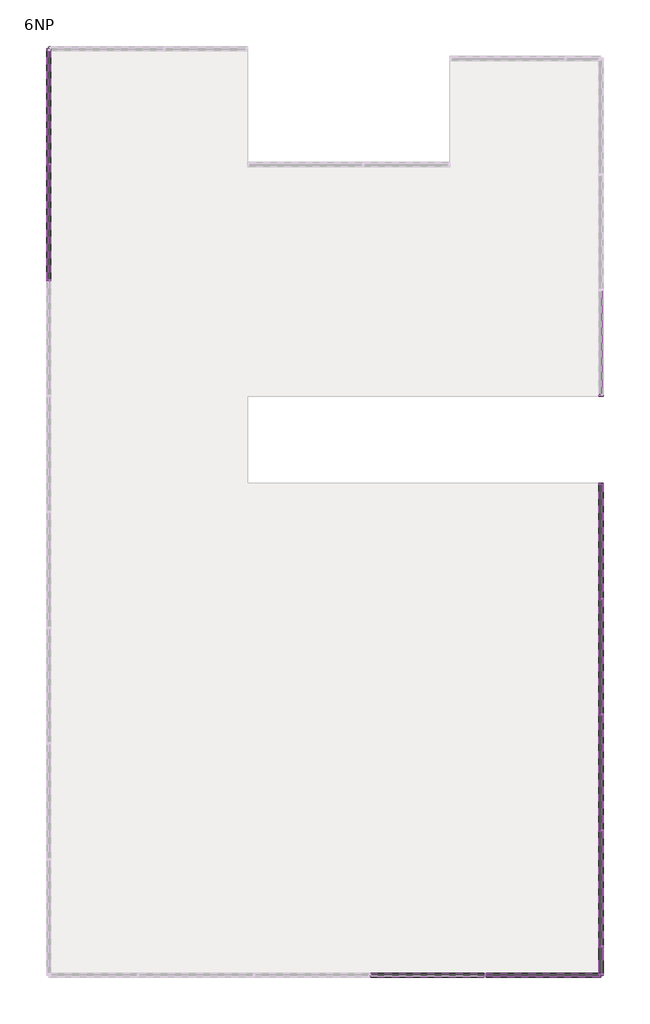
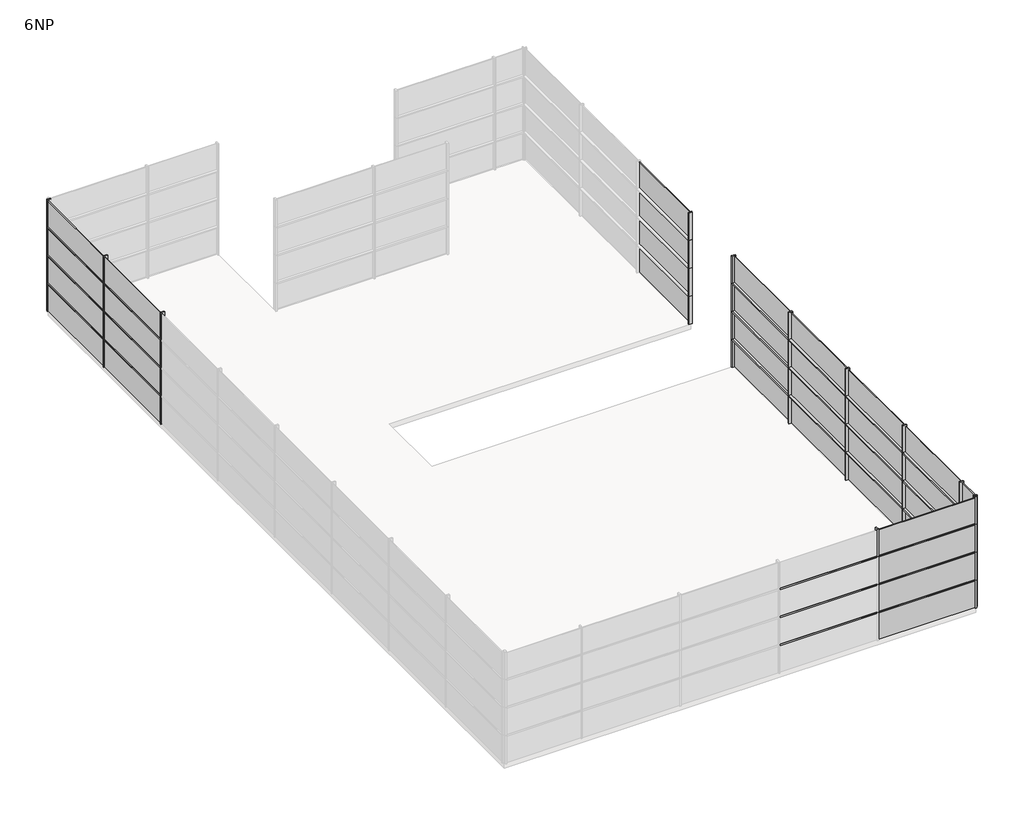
# One storey, part 2 of 3: 73 members, 36 plates.
"""IFC4 building model written with IfcOpenShell, lengths in millimetres."""

from ifc_helpers import new_model, si_unit, origin, place, context, project, spatial, transform, mapped, element, save
from components import rectangular_mullion_50_x_150mm_d99dc9be, rectangular_mullion_50_x_150mm_6588f46c, rectangular_mullion_50_x_150mm_a037c29c, rectangular_mullion_50_x_150mm_c2546fd4, rectangular_mullion_50_x_150mm_568dda71, rectangular_mullion_50_x_150mm_268a5786, rectangular_mullion_50_x_150mm_116cff39, system_panel_glazed_8e9402eb, system_panel_glazed_89ac83a7, system_panel_glazed_5566c609, system_panel_glazed_cf4d7c03, system_panel_glazed_7b3729bb, system_panel_glazed_1a112643, system_panel_glazed_8c18451d, system_panel_glazed_9f27e4b4

model = new_model("IFC4")

# Units and contexts
model_context = context("Model", 3, world=origin())
ifc_project = project(units=[si_unit("LENGTHUNIT", "METRE", prefix="MILLI")], contexts=[model_context])

# Site, building, storey
site = spatial("IfcSite", under=ifc_project)
building = spatial("IfcBuilding", under=site)
storey = spatial("IfcBuildingStorey", under=building, Name="6NP", Elevation=24000.0)

# Members
placement = place(None, origin())
rectangular_mullion_50_x_150mm_shape = rectangular_mullion_50_x_150mm_d99dc9be(model_context)
element("IfcMember", 1, ObjectType="Rectangular Mullion : 50 x 150mm", at=placement, inside=storey, context=model_context, shape_type="MappedRepresentation", body=[
    mapped(rectangular_mullion_50_x_150mm_shape, transform((13503.2660975, -10624.0160434, 25200.0), x_axis=(0.0, -1.0, 0.0), y_axis=(1.0, 0.0, 0.0), z_axis=(0.0, 0.0, 1.0))),
])
element("IfcMember", 2, ObjectType="Rectangular Mullion : 50 x 150mm", at=placement, inside=storey, context=model_context, shape_type="MappedRepresentation", body=[
    mapped(rectangular_mullion_50_x_150mm_shape, transform((13503.2660975, -10624.0160434, 26400.0), x_axis=(0.0, -1.0, 0.0), y_axis=(1.0, 0.0, 0.0), z_axis=(0.0, 0.0, 1.0))),
])
element("IfcMember", 3, ObjectType="Rectangular Mullion : 50 x 150mm", at=placement, inside=storey, context=model_context, shape_type="MappedRepresentation", body=[
    mapped(rectangular_mullion_50_x_150mm_shape, transform((13503.2660975, -10624.0160434, 27600.0), x_axis=(0.0, -1.0, 0.0), y_axis=(1.0, 0.0, 0.0), z_axis=(0.0, 0.0, 1.0))),
])
element("IfcMember", 4, ObjectType="Rectangular Mullion : 50 x 150mm", at=placement, inside=storey, context=model_context, shape_type="MappedRepresentation", body=[
    mapped(rectangular_mullion_50_x_150mm_shape, transform((13503.2660975, -14624.0160434, 25200.0), x_axis=(0.0, -1.0, 0.0), y_axis=(1.0, 0.0, 0.0), z_axis=(0.0, 0.0, 1.0))),
])
element("IfcMember", 5, ObjectType="Rectangular Mullion : 50 x 150mm", at=placement, inside=storey, context=model_context, shape_type="MappedRepresentation", body=[
    mapped(rectangular_mullion_50_x_150mm_shape, transform((13503.2660975, -14624.0160434, 26400.0), x_axis=(0.0, -1.0, 0.0), y_axis=(1.0, 0.0, 0.0), z_axis=(0.0, 0.0, 1.0))),
])
element("IfcMember", 6, ObjectType="Rectangular Mullion : 50 x 150mm", at=placement, inside=storey, context=model_context, shape_type="MappedRepresentation", body=[
    mapped(rectangular_mullion_50_x_150mm_shape, transform((13503.2660975, -14624.0160434, 27600.0), x_axis=(0.0, -1.0, 0.0), y_axis=(1.0, 0.0, 0.0), z_axis=(0.0, 0.0, 1.0))),
])
element("IfcMember", 7, ObjectType="Rectangular Mullion : 50 x 150mm", at=placement, inside=storey, context=model_context, shape_type="MappedRepresentation", body=[
    mapped(rectangular_mullion_50_x_150mm_shape, transform((13503.2660975, -18624.0160434, 25200.0), x_axis=(0.0, -1.0, 0.0), y_axis=(1.0, 0.0, 0.0), z_axis=(0.0, 0.0, 1.0))),
])
element("IfcMember", 8, ObjectType="Rectangular Mullion : 50 x 150mm", at=placement, inside=storey, context=model_context, shape_type="MappedRepresentation", body=[
    mapped(rectangular_mullion_50_x_150mm_shape, transform((13503.2660975, -18624.0160434, 26400.0), x_axis=(0.0, -1.0, 0.0), y_axis=(1.0, 0.0, 0.0), z_axis=(0.0, 0.0, 1.0))),
])
element("IfcMember", 9, ObjectType="Rectangular Mullion : 50 x 150mm", at=placement, inside=storey, context=model_context, shape_type="MappedRepresentation", body=[
    mapped(rectangular_mullion_50_x_150mm_shape, transform((13503.2660975, -18624.0160434, 27600.0), x_axis=(0.0, -1.0, 0.0), y_axis=(1.0, 0.0, 0.0), z_axis=(0.0, 0.0, 1.0))),
])
element("IfcMember", 10, ObjectType="Rectangular Mullion : 50 x 150mm", at=placement, inside=storey, context=model_context, shape_type="MappedRepresentation", body=[
    mapped(rectangular_mullion_50_x_150mm_shape, transform((13503.2660975, -22624.0160434, 25200.0), x_axis=(0.0, -1.0, 0.0), y_axis=(1.0, 0.0, 0.0), z_axis=(0.0, 0.0, 1.0))),
])
element("IfcMember", 11, ObjectType="Rectangular Mullion : 50 x 150mm", at=placement, inside=storey, context=model_context, shape_type="MappedRepresentation", body=[
    mapped(rectangular_mullion_50_x_150mm_shape, transform((13503.2660975, -22624.0160434, 26400.0), x_axis=(0.0, -1.0, 0.0), y_axis=(1.0, 0.0, 0.0), z_axis=(0.0, 0.0, 1.0))),
])
element("IfcMember", 12, ObjectType="Rectangular Mullion : 50 x 150mm", at=placement, inside=storey, context=model_context, shape_type="MappedRepresentation", body=[
    mapped(rectangular_mullion_50_x_150mm_shape, transform((13503.2660975, -22624.0160434, 27600.0), x_axis=(0.0, -1.0, 0.0), y_axis=(1.0, 0.0, 0.0), z_axis=(0.0, 0.0, 1.0))),
])
element("IfcMember", 13, ObjectType="Rectangular Mullion : 50 x 150mm", at=placement, inside=storey, context=model_context, shape_type="MappedRepresentation", body=[
    mapped(rectangular_mullion_50_x_150mm_shape, transform((-5587.173406, 375.9839566, 25200.0), x_axis=(0.0, 1.0, 0.0), y_axis=(-1.0, 0.0, 0.0), z_axis=(0.0, 0.0, 1.0))),
])
element("IfcMember", 14, ObjectType="Rectangular Mullion : 50 x 150mm", at=placement, inside=storey, context=model_context, shape_type="MappedRepresentation", body=[
    mapped(rectangular_mullion_50_x_150mm_shape, transform((-5587.173406, 375.9839566, 26400.0), x_axis=(0.0, 1.0, 0.0), y_axis=(-1.0, 0.0, 0.0), z_axis=(0.0, 0.0, 1.0))),
])
element("IfcMember", 15, ObjectType="Rectangular Mullion : 50 x 150mm", at=placement, inside=storey, context=model_context, shape_type="MappedRepresentation", body=[
    mapped(rectangular_mullion_50_x_150mm_shape, transform((-5587.173406, 375.9839566, 27600.0), x_axis=(0.0, 1.0, 0.0), y_axis=(-1.0, 0.0, 0.0), z_axis=(0.0, 0.0, 1.0))),
])
element("IfcMember", 16, ObjectType="Rectangular Mullion : 50 x 150mm", at=placement, inside=storey, context=model_context, shape_type="MappedRepresentation", body=[
    mapped(rectangular_mullion_50_x_150mm_shape, transform((-5587.173406, 4375.9839566, 25200.0), x_axis=(0.0, 1.0, 0.0), y_axis=(-1.0, 0.0, 0.0), z_axis=(0.0, 0.0, 1.0))),
])
element("IfcMember", 17, ObjectType="Rectangular Mullion : 50 x 150mm", at=placement, inside=storey, context=model_context, shape_type="MappedRepresentation", body=[
    mapped(rectangular_mullion_50_x_150mm_shape, transform((-5587.173406, 4375.9839566, 26400.0), x_axis=(0.0, 1.0, 0.0), y_axis=(-1.0, 0.0, 0.0), z_axis=(0.0, 0.0, 1.0))),
])
element("IfcMember", 18, ObjectType="Rectangular Mullion : 50 x 150mm", at=placement, inside=storey, context=model_context, shape_type="MappedRepresentation", body=[
    mapped(rectangular_mullion_50_x_150mm_shape, transform((-5587.173406, 4375.9839566, 27600.0), x_axis=(0.0, 1.0, 0.0), y_axis=(-1.0, 0.0, 0.0), z_axis=(0.0, 0.0, 1.0))),
])
rectangular_mullion_50_x_150mm_2_shape = rectangular_mullion_50_x_150mm_6588f46c(model_context)
element("IfcMember", 19, ObjectType="Rectangular Mullion : 50 x 150mm", at=placement, inside=storey, context=model_context, shape_type="MappedRepresentation", body=[
    mapped(rectangular_mullion_50_x_150mm_2_shape, transform((13503.2660975, -3624.0160434, 27600.0), x_axis=(0.0, -1.0, 0.0), y_axis=(1.0, 0.0, 0.0), z_axis=(0.0, 0.0, 1.0))),
])
element("IfcMember", 20, ObjectType="Rectangular Mullion : 50 x 150mm", at=placement, inside=storey, context=model_context, shape_type="MappedRepresentation", body=[
    mapped(rectangular_mullion_50_x_150mm_2_shape, transform((13503.2660975, -3624.0160434, 26400.0), x_axis=(0.0, -1.0, 0.0), y_axis=(1.0, 0.0, 0.0), z_axis=(0.0, 0.0, 1.0))),
])
element("IfcMember", 21, ObjectType="Rectangular Mullion : 50 x 150mm", at=placement, inside=storey, context=model_context, shape_type="MappedRepresentation", body=[
    mapped(rectangular_mullion_50_x_150mm_2_shape, transform((13503.2660975, -3624.0160434, 25200.0), x_axis=(0.0, -1.0, 0.0), y_axis=(1.0, 0.0, 0.0), z_axis=(0.0, 0.0, 1.0))),
])
element("IfcMember", 22, ObjectType="Rectangular Mullion : 50 x 150mm", at=placement, inside=storey, context=model_context, shape_type="MappedRepresentation", body=[
    mapped(rectangular_mullion_50_x_150mm_2_shape, transform((13503.2660975, -23624.0160434, 25200.0), x_axis=(0.0, -1.0, 0.0), y_axis=(1.0, 0.0, 0.0), z_axis=(0.0, 0.0, 1.0))),
])
element("IfcMember", 23, ObjectType="Rectangular Mullion : 50 x 150mm", at=placement, inside=storey, context=model_context, shape_type="MappedRepresentation", body=[
    mapped(rectangular_mullion_50_x_150mm_2_shape, transform((13503.2660975, -23624.0160434, 26400.0), x_axis=(0.0, -1.0, 0.0), y_axis=(1.0, 0.0, 0.0), z_axis=(0.0, 0.0, 1.0))),
])
element("IfcMember", 24, ObjectType="Rectangular Mullion : 50 x 150mm", at=placement, inside=storey, context=model_context, shape_type="MappedRepresentation", body=[
    mapped(rectangular_mullion_50_x_150mm_2_shape, transform((13503.2660975, -23624.0160434, 27600.0), x_axis=(0.0, -1.0, 0.0), y_axis=(1.0, 0.0, 0.0), z_axis=(0.0, 0.0, 1.0))),
])
element("IfcMember", 25, ObjectType="Rectangular Mullion : 50 x 150mm", at=placement, inside=storey, context=model_context, shape_type="MappedRepresentation", body=[
    mapped(rectangular_mullion_50_x_150mm_2_shape, transform((-5587.173406, 8375.9839566, 25200.0), x_axis=(0.0, 1.0, 0.0), y_axis=(-1.0, 0.0, 0.0), z_axis=(0.0, 0.0, 1.0))),
])
element("IfcMember", 26, ObjectType="Rectangular Mullion : 50 x 150mm", at=placement, inside=storey, context=model_context, shape_type="MappedRepresentation", body=[
    mapped(rectangular_mullion_50_x_150mm_2_shape, transform((-5587.173406, 8375.9839566, 26400.0), x_axis=(0.0, 1.0, 0.0), y_axis=(-1.0, 0.0, 0.0), z_axis=(0.0, 0.0, 1.0))),
])
element("IfcMember", 27, ObjectType="Rectangular Mullion : 50 x 150mm", at=placement, inside=storey, context=model_context, shape_type="MappedRepresentation", body=[
    mapped(rectangular_mullion_50_x_150mm_2_shape, transform((-5587.173406, 8375.9839566, 27600.0), x_axis=(0.0, 1.0, 0.0), y_axis=(-1.0, 0.0, 0.0), z_axis=(0.0, 0.0, 1.0))),
])
rectangular_mullion_50_x_150mm_3_shape = rectangular_mullion_50_x_150mm_a037c29c(model_context)
element("IfcMember", 28, ObjectType="Rectangular Mullion : 50 x 150mm", at=placement, inside=storey, context=model_context, shape_type="MappedRepresentation", body=[
    mapped(rectangular_mullion_50_x_150mm_3_shape, transform((13503.2660975, -10649.0160434, 25200.0), x_axis=(0.0, 0.0, 1.0), y_axis=(1.0, 0.0, 0.0), z_axis=(0.0, 1.0, 0.0))),
])
element("IfcMember", 29, ObjectType="Rectangular Mullion : 50 x 150mm", at=placement, inside=storey, context=model_context, shape_type="MappedRepresentation", body=[
    mapped(rectangular_mullion_50_x_150mm_3_shape, transform((13503.2660975, -14649.0160434, 25200.0), x_axis=(0.0, 0.0, 1.0), y_axis=(1.0, 0.0, 0.0), z_axis=(0.0, 1.0, 0.0))),
])
element("IfcMember", 30, ObjectType="Rectangular Mullion : 50 x 150mm", at=placement, inside=storey, context=model_context, shape_type="MappedRepresentation", body=[
    mapped(rectangular_mullion_50_x_150mm_3_shape, transform((13503.2660975, -18649.0160434, 25200.0), x_axis=(0.0, 0.0, 1.0), y_axis=(1.0, 0.0, 0.0), z_axis=(0.0, 1.0, 0.0))),
])
element("IfcMember", 31, ObjectType="Rectangular Mullion : 50 x 150mm", at=placement, inside=storey, context=model_context, shape_type="MappedRepresentation", body=[
    mapped(rectangular_mullion_50_x_150mm_3_shape, transform((13503.2660975, -10649.0160434, 26400.0), x_axis=(0.0, 0.0, 1.0), y_axis=(1.0, 0.0, 0.0), z_axis=(0.0, 1.0, 0.0))),
])
element("IfcMember", 32, ObjectType="Rectangular Mullion : 50 x 150mm", at=placement, inside=storey, context=model_context, shape_type="MappedRepresentation", body=[
    mapped(rectangular_mullion_50_x_150mm_3_shape, transform((13503.2660975, -14649.0160434, 26400.0), x_axis=(0.0, 0.0, 1.0), y_axis=(1.0, 0.0, 0.0), z_axis=(0.0, 1.0, 0.0))),
])
element("IfcMember", 33, ObjectType="Rectangular Mullion : 50 x 150mm", at=placement, inside=storey, context=model_context, shape_type="MappedRepresentation", body=[
    mapped(rectangular_mullion_50_x_150mm_3_shape, transform((13503.2660975, -18649.0160434, 26400.0), x_axis=(0.0, 0.0, 1.0), y_axis=(1.0, 0.0, 0.0), z_axis=(0.0, 1.0, 0.0))),
])
element("IfcMember", 34, ObjectType="Rectangular Mullion : 50 x 150mm", at=placement, inside=storey, context=model_context, shape_type="MappedRepresentation", body=[
    mapped(rectangular_mullion_50_x_150mm_3_shape, transform((13503.2660975, -10649.0160434, 27600.0), x_axis=(0.0, 0.0, 1.0), y_axis=(1.0, 0.0, 0.0), z_axis=(0.0, 1.0, 0.0))),
])
element("IfcMember", 35, ObjectType="Rectangular Mullion : 50 x 150mm", at=placement, inside=storey, context=model_context, shape_type="MappedRepresentation", body=[
    mapped(rectangular_mullion_50_x_150mm_3_shape, transform((13503.2660975, -14649.0160434, 27600.0), x_axis=(0.0, 0.0, 1.0), y_axis=(1.0, 0.0, 0.0), z_axis=(0.0, 1.0, 0.0))),
])
element("IfcMember", 36, ObjectType="Rectangular Mullion : 50 x 150mm", at=placement, inside=storey, context=model_context, shape_type="MappedRepresentation", body=[
    mapped(rectangular_mullion_50_x_150mm_3_shape, transform((13503.2660975, -18649.0160434, 27600.0), x_axis=(0.0, 0.0, 1.0), y_axis=(1.0, 0.0, 0.0), z_axis=(0.0, 1.0, 0.0))),
])
element("IfcMember", 37, ObjectType="Rectangular Mullion : 50 x 150mm", at=placement, inside=storey, context=model_context, shape_type="MappedRepresentation", body=[
    mapped(rectangular_mullion_50_x_150mm_3_shape, transform((9478.2660975, -23624.0160434, 25200.0), x_axis=(0.0, 0.0, 1.0), y_axis=(0.0, -1.0, 0.0), z_axis=(1.0, 0.0, 0.0))),
])
element("IfcMember", 38, ObjectType="Rectangular Mullion : 50 x 150mm", at=placement, inside=storey, context=model_context, shape_type="MappedRepresentation", body=[
    mapped(rectangular_mullion_50_x_150mm_3_shape, transform((9478.2660975, -23624.0160434, 26400.0), x_axis=(0.0, 0.0, 1.0), y_axis=(0.0, -1.0, 0.0), z_axis=(1.0, 0.0, 0.0))),
])
element("IfcMember", 39, ObjectType="Rectangular Mullion : 50 x 150mm", at=placement, inside=storey, context=model_context, shape_type="MappedRepresentation", body=[
    mapped(rectangular_mullion_50_x_150mm_3_shape, transform((9478.2660975, -23624.0160434, 27600.0), x_axis=(0.0, 0.0, 1.0), y_axis=(0.0, -1.0, 0.0), z_axis=(1.0, 0.0, 0.0))),
])
element("IfcMember", 40, ObjectType="Rectangular Mullion : 50 x 150mm", at=placement, inside=storey, context=model_context, shape_type="MappedRepresentation", body=[
    mapped(rectangular_mullion_50_x_150mm_3_shape, transform((-5587.173406, 400.9839566, 25200.0), x_axis=(0.0, 0.0, 1.0), y_axis=(-1.0, 0.0, 0.0), z_axis=(0.0, -1.0, 0.0))),
])
element("IfcMember", 41, ObjectType="Rectangular Mullion : 50 x 150mm", at=placement, inside=storey, context=model_context, shape_type="MappedRepresentation", body=[
    mapped(rectangular_mullion_50_x_150mm_3_shape, transform((-5587.173406, 400.9839566, 26400.0), x_axis=(0.0, 0.0, 1.0), y_axis=(-1.0, 0.0, 0.0), z_axis=(0.0, -1.0, 0.0))),
])
element("IfcMember", 42, ObjectType="Rectangular Mullion : 50 x 150mm", at=placement, inside=storey, context=model_context, shape_type="MappedRepresentation", body=[
    mapped(rectangular_mullion_50_x_150mm_3_shape, transform((-5587.173406, 400.9839566, 27600.0), x_axis=(0.0, 0.0, 1.0), y_axis=(-1.0, 0.0, 0.0), z_axis=(0.0, -1.0, 0.0))),
])
rectangular_mullion_50_x_150mm_4_shape = rectangular_mullion_50_x_150mm_c2546fd4(model_context)
element("IfcMember", 43, ObjectType="Rectangular Mullion : 50 x 150mm", at=placement, inside=storey, context=model_context, shape_type="MappedRepresentation", body=[
    mapped(rectangular_mullion_50_x_150mm_4_shape, transform((13503.2660975, -6674.0160434, 25200.0), x_axis=(0.0, 0.0, 1.0), y_axis=(1.0, 0.0, 0.0), z_axis=(0.0, 1.0, 0.0))),
])
element("IfcMember", 44, ObjectType="Rectangular Mullion : 50 x 150mm", at=placement, inside=storey, context=model_context, shape_type="MappedRepresentation", body=[
    mapped(rectangular_mullion_50_x_150mm_4_shape, transform((13503.2660975, -6674.0160434, 26400.0), x_axis=(0.0, 0.0, 1.0), y_axis=(1.0, 0.0, 0.0), z_axis=(0.0, 1.0, 0.0))),
])
element("IfcMember", 45, ObjectType="Rectangular Mullion : 50 x 150mm", at=placement, inside=storey, context=model_context, shape_type="MappedRepresentation", body=[
    mapped(rectangular_mullion_50_x_150mm_4_shape, transform((13503.2660975, -6674.0160434, 27600.0), x_axis=(0.0, 0.0, 1.0), y_axis=(1.0, 0.0, 0.0), z_axis=(0.0, 1.0, 0.0))),
])
element("IfcMember", 46, ObjectType="Rectangular Mullion : 50 x 150mm", at=placement, inside=storey, context=model_context, shape_type="MappedRepresentation", body=[
    mapped(rectangular_mullion_50_x_150mm_4_shape, transform((13453.2660975, -23624.0160434, 25200.0), x_axis=(0.0, 0.0, 1.0), y_axis=(0.0, -1.0, 0.0), z_axis=(1.0, 0.0, 0.0))),
])
element("IfcMember", 47, ObjectType="Rectangular Mullion : 50 x 150mm", at=placement, inside=storey, context=model_context, shape_type="MappedRepresentation", body=[
    mapped(rectangular_mullion_50_x_150mm_4_shape, transform((13453.2660975, -23624.0160434, 26400.0), x_axis=(0.0, 0.0, 1.0), y_axis=(0.0, -1.0, 0.0), z_axis=(1.0, 0.0, 0.0))),
])
element("IfcMember", 48, ObjectType="Rectangular Mullion : 50 x 150mm", at=placement, inside=storey, context=model_context, shape_type="MappedRepresentation", body=[
    mapped(rectangular_mullion_50_x_150mm_4_shape, transform((13453.2660975, -23624.0160434, 27600.0), x_axis=(0.0, 0.0, 1.0), y_axis=(0.0, -1.0, 0.0), z_axis=(1.0, 0.0, 0.0))),
])
element("IfcMember", 49, ObjectType="Rectangular Mullion : 50 x 150mm", at=placement, inside=storey, context=model_context, shape_type="MappedRepresentation", body=[
    mapped(rectangular_mullion_50_x_150mm_4_shape, transform((-5587.173406, 4400.9839566, 25200.0), x_axis=(0.0, 0.0, 1.0), y_axis=(-1.0, 0.0, 0.0), z_axis=(0.0, -1.0, 0.0))),
])
element("IfcMember", 50, ObjectType="Rectangular Mullion : 50 x 150mm", at=placement, inside=storey, context=model_context, shape_type="MappedRepresentation", body=[
    mapped(rectangular_mullion_50_x_150mm_4_shape, transform((-5587.173406, 4400.9839566, 26400.0), x_axis=(0.0, 0.0, 1.0), y_axis=(-1.0, 0.0, 0.0), z_axis=(0.0, -1.0, 0.0))),
])
element("IfcMember", 51, ObjectType="Rectangular Mullion : 50 x 150mm", at=placement, inside=storey, context=model_context, shape_type="MappedRepresentation", body=[
    mapped(rectangular_mullion_50_x_150mm_4_shape, transform((-5587.173406, 4400.9839566, 27600.0), x_axis=(0.0, 0.0, 1.0), y_axis=(-1.0, 0.0, 0.0), z_axis=(0.0, -1.0, 0.0))),
])
rectangular_mullion_50_x_150mm_5_shape = rectangular_mullion_50_x_150mm_568dda71(model_context)
element("IfcMember", 52, ObjectType="Rectangular Mullion : 50 x 150mm", at=placement, inside=storey, context=model_context, shape_type="MappedRepresentation", body=[
    mapped(rectangular_mullion_50_x_150mm_5_shape, transform((13503.2660975, -22624.0160434, 28773.2453384), x_axis=(0.0, -1.0, 0.0), y_axis=(1.0, 0.0, 0.0), z_axis=(0.0, 0.0, 1.0))),
])
element("IfcMember", 53, ObjectType="Rectangular Mullion : 50 x 150mm", at=placement, inside=storey, context=model_context, shape_type="MappedRepresentation", body=[
    mapped(rectangular_mullion_50_x_150mm_5_shape, transform((13503.2660975, -18624.0160434, 28773.2453384), x_axis=(0.0, -1.0, 0.0), y_axis=(1.0, 0.0, 0.0), z_axis=(0.0, 0.0, 1.0))),
])
element("IfcMember", 54, ObjectType="Rectangular Mullion : 50 x 150mm", at=placement, inside=storey, context=model_context, shape_type="MappedRepresentation", body=[
    mapped(rectangular_mullion_50_x_150mm_5_shape, transform((13503.2660975, -14624.0160434, 28773.2453384), x_axis=(0.0, -1.0, 0.0), y_axis=(1.0, 0.0, 0.0), z_axis=(0.0, 0.0, 1.0))),
])
element("IfcMember", 55, ObjectType="Rectangular Mullion : 50 x 150mm", at=placement, inside=storey, context=model_context, shape_type="MappedRepresentation", body=[
    mapped(rectangular_mullion_50_x_150mm_5_shape, transform((13503.2660975, -10624.0160434, 28773.2453384), x_axis=(0.0, -1.0, 0.0), y_axis=(1.0, 0.0, 0.0), z_axis=(0.0, 0.0, 1.0))),
])
element("IfcMember", 56, ObjectType="Rectangular Mullion : 50 x 150mm", at=placement, inside=storey, context=model_context, shape_type="MappedRepresentation", body=[
    mapped(rectangular_mullion_50_x_150mm_5_shape, transform((9503.2660975, -23624.0160434, 28773.2453384), x_axis=(-1.0, 0.0, 0.0), y_axis=(0.0, -1.0, 0.0), z_axis=(0.0, 0.0, 1.0))),
])
element("IfcMember", 57, ObjectType="Rectangular Mullion : 50 x 150mm", at=placement, inside=storey, context=model_context, shape_type="MappedRepresentation", body=[
    mapped(rectangular_mullion_50_x_150mm_5_shape, transform((-5587.173406, 375.9839566, 28773.2453384), x_axis=(0.0, 1.0, 0.0), y_axis=(-1.0, 0.0, 0.0), z_axis=(0.0, 0.0, 1.0))),
])
element("IfcMember", 58, ObjectType="Rectangular Mullion : 50 x 150mm", at=placement, inside=storey, context=model_context, shape_type="MappedRepresentation", body=[
    mapped(rectangular_mullion_50_x_150mm_5_shape, transform((-5587.173406, 4375.9839566, 28773.2453384), x_axis=(0.0, 1.0, 0.0), y_axis=(-1.0, 0.0, 0.0), z_axis=(0.0, 0.0, 1.0))),
])
rectangular_mullion_50_x_150mm_6_shape = rectangular_mullion_50_x_150mm_268a5786(model_context)
element("IfcMember", 59, ObjectType="Rectangular Mullion : 50 x 150mm", at=placement, inside=storey, context=model_context, shape_type="MappedRepresentation", body=[
    mapped(rectangular_mullion_50_x_150mm_6_shape, transform((13503.2660975, -3624.0160434, 28773.2453384), x_axis=(0.0, -1.0, 0.0), y_axis=(1.0, 0.0, 0.0), z_axis=(0.0, 0.0, 1.0))),
])
element("IfcMember", 60, ObjectType="Rectangular Mullion : 50 x 150mm", at=placement, inside=storey, context=model_context, shape_type="MappedRepresentation", body=[
    mapped(rectangular_mullion_50_x_150mm_6_shape, transform((13503.2660975, -23624.0160434, 28773.2453384), x_axis=(0.0, -1.0, 0.0), y_axis=(1.0, 0.0, 0.0), z_axis=(0.0, 0.0, 1.0))),
])
element("IfcMember", 61, ObjectType="Rectangular Mullion : 50 x 150mm", at=placement, inside=storey, context=model_context, shape_type="MappedRepresentation", body=[
    mapped(rectangular_mullion_50_x_150mm_6_shape, transform((-5587.173406, 8375.9839566, 28773.2453384), x_axis=(0.0, 1.0, 0.0), y_axis=(-1.0, 0.0, 0.0), z_axis=(0.0, 0.0, 1.0))),
])
element("IfcMember", 62, ObjectType="Rectangular Mullion : 50 x 150mm", at=placement, inside=storey, context=model_context, shape_type="MappedRepresentation", body=[
    mapped(rectangular_mullion_50_x_150mm_6_shape, transform((13503.2660975, -6624.0160434, 27600.0), x_axis=(0.0, 1.0, 0.0), y_axis=(1.0, 0.0, 0.0), z_axis=(0.0, 0.0, -1.0))),
])
element("IfcMember", 63, ObjectType="Rectangular Mullion : 50 x 150mm", at=placement, inside=storey, context=model_context, shape_type="MappedRepresentation", body=[
    mapped(rectangular_mullion_50_x_150mm_6_shape, transform((13503.2660975, -23624.0160434, 27600.0), x_axis=(1.0, 0.0, 0.0), y_axis=(0.0, -1.0, 0.0), z_axis=(0.0, 0.0, -1.0))),
])
element("IfcMember", 64, ObjectType="Rectangular Mullion : 50 x 150mm", at=placement, inside=storey, context=model_context, shape_type="MappedRepresentation", body=[
    mapped(rectangular_mullion_50_x_150mm_2_shape, transform((13503.2660975, -6624.0160434, 24000.0), x_axis=(0.0, 1.0, 0.0), y_axis=(1.0, 0.0, 0.0), z_axis=(0.0, 0.0, -1.0))),
])
element("IfcMember", 65, ObjectType="Rectangular Mullion : 50 x 150mm", at=placement, inside=storey, context=model_context, shape_type="MappedRepresentation", body=[
    mapped(rectangular_mullion_50_x_150mm_2_shape, transform((13503.2660975, -6624.0160434, 25200.0), x_axis=(0.0, 1.0, 0.0), y_axis=(1.0, 0.0, 0.0), z_axis=(0.0, 0.0, -1.0))),
])
element("IfcMember", 66, ObjectType="Rectangular Mullion : 50 x 150mm", at=placement, inside=storey, context=model_context, shape_type="MappedRepresentation", body=[
    mapped(rectangular_mullion_50_x_150mm_2_shape, transform((13503.2660975, -6624.0160434, 26400.0), x_axis=(0.0, 1.0, 0.0), y_axis=(1.0, 0.0, 0.0), z_axis=(0.0, 0.0, -1.0))),
])
element("IfcMember", 67, ObjectType="Rectangular Mullion : 50 x 150mm", at=placement, inside=storey, context=model_context, shape_type="MappedRepresentation", body=[
    mapped(rectangular_mullion_50_x_150mm_2_shape, transform((13503.2660975, -23624.0160434, 24000.0), x_axis=(1.0, 0.0, 0.0), y_axis=(0.0, -1.0, 0.0), z_axis=(0.0, 0.0, -1.0))),
])
element("IfcMember", 68, ObjectType="Rectangular Mullion : 50 x 150mm", at=placement, inside=storey, context=model_context, shape_type="MappedRepresentation", body=[
    mapped(rectangular_mullion_50_x_150mm_2_shape, transform((13503.2660975, -23624.0160434, 25200.0), x_axis=(1.0, 0.0, 0.0), y_axis=(0.0, -1.0, 0.0), z_axis=(0.0, 0.0, -1.0))),
])
element("IfcMember", 69, ObjectType="Rectangular Mullion : 50 x 150mm", at=placement, inside=storey, context=model_context, shape_type="MappedRepresentation", body=[
    mapped(rectangular_mullion_50_x_150mm_2_shape, transform((13503.2660975, -23624.0160434, 26400.0), x_axis=(1.0, 0.0, 0.0), y_axis=(0.0, -1.0, 0.0), z_axis=(0.0, 0.0, -1.0))),
])
element("IfcMember", 70, ObjectType="Rectangular Mullion : 50 x 150mm", at=placement, inside=storey, context=model_context, shape_type="MappedRepresentation", body=[
    mapped(rectangular_mullion_50_x_150mm_2_shape, transform((-5587.173406, 8375.9839566, 24000.0), x_axis=(-1.0, 0.0, 0.0), y_axis=(0.0, 1.0, 0.0), z_axis=(0.0, 0.0, -1.0))),
])
rectangular_mullion_50_x_150mm_7_shape = rectangular_mullion_50_x_150mm_116cff39(model_context)
element("IfcMember", 71, ObjectType="Rectangular Mullion : 50 x 150mm", at=placement, inside=storey, context=model_context, shape_type="MappedRepresentation", body=[
    mapped(rectangular_mullion_50_x_150mm_7_shape, transform((13503.2660975, -22649.0160434, 25200.0), x_axis=(0.0, 0.0, 1.0), y_axis=(1.0, 0.0, 0.0), z_axis=(0.0, 1.0, 0.0))),
])
element("IfcMember", 72, ObjectType="Rectangular Mullion : 50 x 150mm", at=placement, inside=storey, context=model_context, shape_type="MappedRepresentation", body=[
    mapped(rectangular_mullion_50_x_150mm_7_shape, transform((13503.2660975, -22649.0160434, 26400.0), x_axis=(0.0, 0.0, 1.0), y_axis=(1.0, 0.0, 0.0), z_axis=(0.0, 1.0, 0.0))),
])
element("IfcMember", 73, ObjectType="Rectangular Mullion : 50 x 150mm", at=placement, inside=storey, context=model_context, shape_type="MappedRepresentation", body=[
    mapped(rectangular_mullion_50_x_150mm_7_shape, transform((13503.2660975, -22649.0160434, 27600.0), x_axis=(0.0, 0.0, 1.0), y_axis=(1.0, 0.0, 0.0), z_axis=(0.0, 1.0, 0.0))),
])

# Plates
system_panel_glazed_shape = system_panel_glazed_8e9402eb(model_context)
element("IfcPlate", 74, ObjectType="System Panel : Glazed", at=placement, inside=storey, context=model_context, shape_type="MappedRepresentation", body=[
    mapped(system_panel_glazed_shape, transform((-5587.173406, 6363.4839566, 24025.0), x_axis=(0.0, 1.0, 0.0), y_axis=(-1.0, 0.0, 0.0), z_axis=(0.0, 0.0, 1.0))),
])
element("IfcPlate", 75, ObjectType="System Panel : Glazed", at=placement, inside=storey, context=model_context, shape_type="MappedRepresentation", body=[
    mapped(system_panel_glazed_shape, transform((-5587.173406, 6363.4839566, 25225.0), x_axis=(0.0, 1.0, 0.0), y_axis=(-1.0, 0.0, 0.0), z_axis=(0.0, 0.0, 1.0))),
])
element("IfcPlate", 76, ObjectType="System Panel : Glazed", at=placement, inside=storey, context=model_context, shape_type="MappedRepresentation", body=[
    mapped(system_panel_glazed_shape, transform((-5587.173406, 6363.4839566, 26425.0), x_axis=(0.0, 1.0, 0.0), y_axis=(-1.0, 0.0, 0.0), z_axis=(0.0, 0.0, 1.0))),
])
element("IfcPlate", 77, ObjectType="System Panel : Glazed", at=placement, inside=storey, context=model_context, shape_type="MappedRepresentation", body=[
    mapped(system_panel_glazed_shape, transform((11490.7660975, -23624.0160434, 24025.0), x_axis=(-1.0, 0.0, 0.0), y_axis=(0.0, -1.0, 0.0), z_axis=(0.0, 0.0, 1.0))),
])
element("IfcPlate", 78, ObjectType="System Panel : Glazed", at=placement, inside=storey, context=model_context, shape_type="MappedRepresentation", body=[
    mapped(system_panel_glazed_shape, transform((11490.7660975, -23624.0160434, 25225.0), x_axis=(-1.0, 0.0, 0.0), y_axis=(0.0, -1.0, 0.0), z_axis=(0.0, 0.0, 1.0))),
])
element("IfcPlate", 79, ObjectType="System Panel : Glazed", at=placement, inside=storey, context=model_context, shape_type="MappedRepresentation", body=[
    mapped(system_panel_glazed_shape, transform((11490.7660975, -23624.0160434, 26425.0), x_axis=(-1.0, 0.0, 0.0), y_axis=(0.0, -1.0, 0.0), z_axis=(0.0, 0.0, 1.0))),
])
element("IfcPlate", 80, ObjectType="System Panel : Glazed", at=placement, inside=storey, context=model_context, shape_type="MappedRepresentation", body=[
    mapped(system_panel_glazed_shape, transform((13503.2660975, -8636.5160434, 24025.0), x_axis=(0.0, -1.0, 0.0), y_axis=(1.0, 0.0, 0.0), z_axis=(0.0, 0.0, 1.0))),
])
element("IfcPlate", 81, ObjectType="System Panel : Glazed", at=placement, inside=storey, context=model_context, shape_type="MappedRepresentation", body=[
    mapped(system_panel_glazed_shape, transform((13503.2660975, -8636.5160434, 25225.0), x_axis=(0.0, -1.0, 0.0), y_axis=(1.0, 0.0, 0.0), z_axis=(0.0, 0.0, 1.0))),
])
element("IfcPlate", 82, ObjectType="System Panel : Glazed", at=placement, inside=storey, context=model_context, shape_type="MappedRepresentation", body=[
    mapped(system_panel_glazed_shape, transform((13503.2660975, -8636.5160434, 26425.0), x_axis=(0.0, -1.0, 0.0), y_axis=(1.0, 0.0, 0.0), z_axis=(0.0, 0.0, 1.0))),
])
system_panel_glazed_2_shape = system_panel_glazed_89ac83a7(model_context)
element("IfcPlate", 83, ObjectType="System Panel : Glazed", at=placement, inside=storey, context=model_context, shape_type="MappedRepresentation", body=[
    mapped(system_panel_glazed_2_shape, transform((-5587.173406, 2375.9839566, 24025.0), x_axis=(0.0, 1.0, 0.0), y_axis=(-1.0, 0.0, 0.0), z_axis=(0.0, 0.0, 1.0))),
])
element("IfcPlate", 84, ObjectType="System Panel : Glazed", at=placement, inside=storey, context=model_context, shape_type="MappedRepresentation", body=[
    mapped(system_panel_glazed_2_shape, transform((-5587.173406, 2375.9839566, 25225.0), x_axis=(0.0, 1.0, 0.0), y_axis=(-1.0, 0.0, 0.0), z_axis=(0.0, 0.0, 1.0))),
])
element("IfcPlate", 85, ObjectType="System Panel : Glazed", at=placement, inside=storey, context=model_context, shape_type="MappedRepresentation", body=[
    mapped(system_panel_glazed_2_shape, transform((-5587.173406, 2375.9839566, 26425.0), x_axis=(0.0, 1.0, 0.0), y_axis=(-1.0, 0.0, 0.0), z_axis=(0.0, 0.0, 1.0))),
])
element("IfcPlate", 86, ObjectType="System Panel : Glazed", at=placement, inside=storey, context=model_context, shape_type="MappedRepresentation", body=[
    mapped(system_panel_glazed_2_shape, transform((13503.2660975, -12624.0160434, 24025.0), x_axis=(0.0, -1.0, 0.0), y_axis=(1.0, 0.0, 0.0), z_axis=(0.0, 0.0, 1.0))),
])
element("IfcPlate", 87, ObjectType="System Panel : Glazed", at=placement, inside=storey, context=model_context, shape_type="MappedRepresentation", body=[
    mapped(system_panel_glazed_2_shape, transform((13503.2660975, -16624.0160434, 24025.0), x_axis=(0.0, -1.0, 0.0), y_axis=(1.0, 0.0, 0.0), z_axis=(0.0, 0.0, 1.0))),
])
element("IfcPlate", 88, ObjectType="System Panel : Glazed", at=placement, inside=storey, context=model_context, shape_type="MappedRepresentation", body=[
    mapped(system_panel_glazed_2_shape, transform((13503.2660975, -20624.0160434, 24025.0), x_axis=(0.0, -1.0, 0.0), y_axis=(1.0, 0.0, 0.0), z_axis=(0.0, 0.0, 1.0))),
])
element("IfcPlate", 89, ObjectType="System Panel : Glazed", at=placement, inside=storey, context=model_context, shape_type="MappedRepresentation", body=[
    mapped(system_panel_glazed_2_shape, transform((13503.2660975, -12624.0160434, 25225.0), x_axis=(0.0, -1.0, 0.0), y_axis=(1.0, 0.0, 0.0), z_axis=(0.0, 0.0, 1.0))),
])
element("IfcPlate", 90, ObjectType="System Panel : Glazed", at=placement, inside=storey, context=model_context, shape_type="MappedRepresentation", body=[
    mapped(system_panel_glazed_2_shape, transform((13503.2660975, -16624.0160434, 25225.0), x_axis=(0.0, -1.0, 0.0), y_axis=(1.0, 0.0, 0.0), z_axis=(0.0, 0.0, 1.0))),
])
element("IfcPlate", 91, ObjectType="System Panel : Glazed", at=placement, inside=storey, context=model_context, shape_type="MappedRepresentation", body=[
    mapped(system_panel_glazed_2_shape, transform((13503.2660975, -20624.0160434, 25225.0), x_axis=(0.0, -1.0, 0.0), y_axis=(1.0, 0.0, 0.0), z_axis=(0.0, 0.0, 1.0))),
])
element("IfcPlate", 92, ObjectType="System Panel : Glazed", at=placement, inside=storey, context=model_context, shape_type="MappedRepresentation", body=[
    mapped(system_panel_glazed_2_shape, transform((13503.2660975, -12624.0160434, 26425.0), x_axis=(0.0, -1.0, 0.0), y_axis=(1.0, 0.0, 0.0), z_axis=(0.0, 0.0, 1.0))),
])
element("IfcPlate", 93, ObjectType="System Panel : Glazed", at=placement, inside=storey, context=model_context, shape_type="MappedRepresentation", body=[
    mapped(system_panel_glazed_2_shape, transform((13503.2660975, -16624.0160434, 26425.0), x_axis=(0.0, -1.0, 0.0), y_axis=(1.0, 0.0, 0.0), z_axis=(0.0, 0.0, 1.0))),
])
element("IfcPlate", 94, ObjectType="System Panel : Glazed", at=placement, inside=storey, context=model_context, shape_type="MappedRepresentation", body=[
    mapped(system_panel_glazed_2_shape, transform((13503.2660975, -20624.0160434, 26425.0), x_axis=(0.0, -1.0, 0.0), y_axis=(1.0, 0.0, 0.0), z_axis=(0.0, 0.0, 1.0))),
])
system_panel_glazed_3_shape = system_panel_glazed_5566c609(model_context)
element("IfcPlate", 95, ObjectType="System Panel : Glazed", at=placement, inside=storey, context=model_context, shape_type="MappedRepresentation", body=[
    mapped(system_panel_glazed_3_shape, transform((13503.2660975, -1779.830251, 24025.0), x_axis=(0.0, -1.0, 0.0), y_axis=(1.0, 0.0, 0.0), z_axis=(0.0, 0.0, 1.0))),
])
element("IfcPlate", 96, ObjectType="System Panel : Glazed", at=placement, inside=storey, context=model_context, shape_type="MappedRepresentation", body=[
    mapped(system_panel_glazed_3_shape, transform((13503.2660975, -1779.830251, 25225.0), x_axis=(0.0, -1.0, 0.0), y_axis=(1.0, 0.0, 0.0), z_axis=(0.0, 0.0, 1.0))),
])
element("IfcPlate", 97, ObjectType="System Panel : Glazed", at=placement, inside=storey, context=model_context, shape_type="MappedRepresentation", body=[
    mapped(system_panel_glazed_3_shape, transform((13503.2660975, -1779.830251, 26425.0), x_axis=(0.0, -1.0, 0.0), y_axis=(1.0, 0.0, 0.0), z_axis=(0.0, 0.0, 1.0))),
])
system_panel_glazed_4_shape = system_panel_glazed_cf4d7c03(model_context)
element("IfcPlate", 98, ObjectType="System Panel : Glazed", at=placement, inside=storey, context=model_context, shape_type="MappedRepresentation", body=[
    mapped(system_panel_glazed_4_shape, transform((-5587.173406, 6363.4839566, 27625.0), x_axis=(0.0, 1.0, 0.0), y_axis=(-1.0, 0.0, 0.0), z_axis=(0.0, 0.0, 1.0))),
])
element("IfcPlate", 99, ObjectType="System Panel : Glazed", at=placement, inside=storey, context=model_context, shape_type="MappedRepresentation", body=[
    mapped(system_panel_glazed_4_shape, transform((11490.7660975, -23624.0160434, 27625.0), x_axis=(-1.0, 0.0, 0.0), y_axis=(0.0, -1.0, 0.0), z_axis=(0.0, 0.0, 1.0))),
])
element("IfcPlate", 100, ObjectType="System Panel : Glazed", at=placement, inside=storey, context=model_context, shape_type="MappedRepresentation", body=[
    mapped(system_panel_glazed_4_shape, transform((13503.2660975, -8636.5160434, 27625.0), x_axis=(0.0, -1.0, 0.0), y_axis=(1.0, 0.0, 0.0), z_axis=(0.0, 0.0, 1.0))),
])
system_panel_glazed_5_shape = system_panel_glazed_7b3729bb(model_context)
element("IfcPlate", 101, ObjectType="System Panel : Glazed", at=placement, inside=storey, context=model_context, shape_type="MappedRepresentation", body=[
    mapped(system_panel_glazed_5_shape, transform((-5587.173406, 2375.9839566, 27625.0), x_axis=(0.0, 1.0, 0.0), y_axis=(-1.0, 0.0, 0.0), z_axis=(0.0, 0.0, 1.0))),
])
element("IfcPlate", 102, ObjectType="System Panel : Glazed", at=placement, inside=storey, context=model_context, shape_type="MappedRepresentation", body=[
    mapped(system_panel_glazed_5_shape, transform((13503.2660975, -12624.0160434, 27625.0), x_axis=(0.0, -1.0, 0.0), y_axis=(1.0, 0.0, 0.0), z_axis=(0.0, 0.0, 1.0))),
])
element("IfcPlate", 103, ObjectType="System Panel : Glazed", at=placement, inside=storey, context=model_context, shape_type="MappedRepresentation", body=[
    mapped(system_panel_glazed_5_shape, transform((13503.2660975, -16624.0160434, 27625.0), x_axis=(0.0, -1.0, 0.0), y_axis=(1.0, 0.0, 0.0), z_axis=(0.0, 0.0, 1.0))),
])
element("IfcPlate", 104, ObjectType="System Panel : Glazed", at=placement, inside=storey, context=model_context, shape_type="MappedRepresentation", body=[
    mapped(system_panel_glazed_5_shape, transform((13503.2660975, -20624.0160434, 27625.0), x_axis=(0.0, -1.0, 0.0), y_axis=(1.0, 0.0, 0.0), z_axis=(0.0, 0.0, 1.0))),
])
system_panel_glazed_6_shape = system_panel_glazed_1a112643(model_context)
element("IfcPlate", 105, ObjectType="System Panel : Glazed", at=placement, inside=storey, context=model_context, shape_type="MappedRepresentation", body=[
    mapped(system_panel_glazed_6_shape, transform((13503.2660975, -1779.830251, 27625.0), x_axis=(0.0, -1.0, 0.0), y_axis=(1.0, 0.0, 0.0), z_axis=(0.0, 0.0, 1.0))),
])
system_panel_glazed_7_shape = system_panel_glazed_8c18451d(model_context)
element("IfcPlate", 106, ObjectType="System Panel : Glazed", at=placement, inside=storey, context=model_context, shape_type="MappedRepresentation", body=[
    mapped(system_panel_glazed_7_shape, transform((13503.2660975, -23111.5160434, 24025.0), x_axis=(0.0, -1.0, 0.0), y_axis=(1.0, 0.0, 0.0), z_axis=(0.0, 0.0, 1.0))),
])
element("IfcPlate", 107, ObjectType="System Panel : Glazed", at=placement, inside=storey, context=model_context, shape_type="MappedRepresentation", body=[
    mapped(system_panel_glazed_7_shape, transform((13503.2660975, -23111.5160434, 25225.0), x_axis=(0.0, -1.0, 0.0), y_axis=(1.0, 0.0, 0.0), z_axis=(0.0, 0.0, 1.0))),
])
element("IfcPlate", 108, ObjectType="System Panel : Glazed", at=placement, inside=storey, context=model_context, shape_type="MappedRepresentation", body=[
    mapped(system_panel_glazed_7_shape, transform((13503.2660975, -23111.5160434, 26425.0), x_axis=(0.0, -1.0, 0.0), y_axis=(1.0, 0.0, 0.0), z_axis=(0.0, 0.0, 1.0))),
])
system_panel_glazed_8_shape = system_panel_glazed_9f27e4b4(model_context)
element("IfcPlate", 109, ObjectType="System Panel : Glazed", at=placement, inside=storey, context=model_context, shape_type="MappedRepresentation", body=[
    mapped(system_panel_glazed_8_shape, transform((13503.2660975, -23111.5160434, 27625.0), x_axis=(0.0, -1.0, 0.0), y_axis=(1.0, 0.0, 0.0), z_axis=(0.0, 0.0, 1.0))),
])

save(model, "model.ifc")
